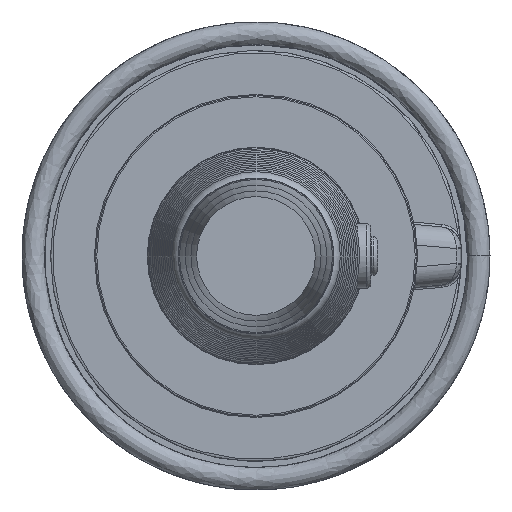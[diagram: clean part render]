
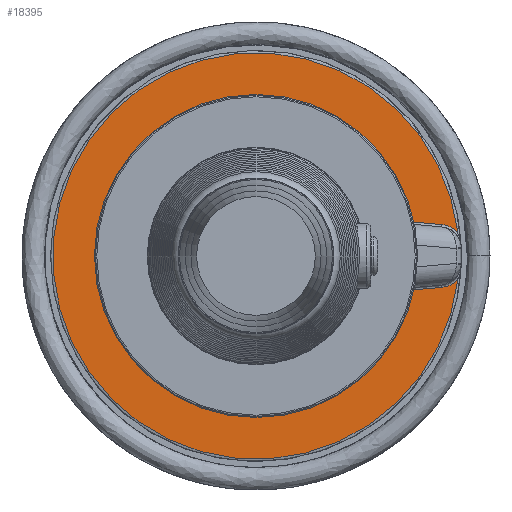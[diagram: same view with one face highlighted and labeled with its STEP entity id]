
A CAD part, left-side view. The second image highlights one B-rep face of the part: STEP entity #18395.
In plain terms, the highlighted planar face has unit normal (-1, 0, 0).
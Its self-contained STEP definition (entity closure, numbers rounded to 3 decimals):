
#1102=LINE('',#44011,#2132);
#1104=LINE('',#44035,#2134);
#2132=VECTOR('',#22736,10.);
#2134=VECTOR('',#22766,10.);
#2897=PLANE('',#19541);
#3720=FACE_OUTER_BOUND('',#4822,.T.);
#4822=EDGE_LOOP('',(#15258,#15259,#15260,#15261,#15262,#15263,#15264,#15265));
#5365=CIRCLE('',#19468,21.);
#5369=CIRCLE('',#19474,8.);
#5372=CIRCLE('',#19478,113.);
#5375=CIRCLE('',#19482,8.);
#5379=CIRCLE('',#19488,21.);
#5385=CIRCLE('',#19506,178.);
#7949=VERTEX_POINT('',#43978);
#7952=VERTEX_POINT('',#44003);
#7954=VERTEX_POINT('',#44009);
#7956=VERTEX_POINT('',#44015);
#7958=VERTEX_POINT('',#44021);
#7960=VERTEX_POINT('',#44027);
#7962=VERTEX_POINT('',#44033);
#7964=VERTEX_POINT('',#44039);
#10345=EDGE_CURVE('',#7952,#7949,#5365,.T.);
#10348=EDGE_CURVE('',#7954,#7952,#1102,.T.);
#10351=EDGE_CURVE('',#7956,#7954,#5369,.T.);
#10354=EDGE_CURVE('',#7958,#7956,#5372,.T.);
#10357=EDGE_CURVE('',#7960,#7958,#5375,.T.);
#10360=EDGE_CURVE('',#7962,#7960,#1104,.T.);
#10363=EDGE_CURVE('',#7964,#7962,#5379,.T.);
#10387=EDGE_CURVE('',#7949,#7964,#5385,.T.);
#15258=ORIENTED_EDGE('',*,*,#10363,.F.);
#15259=ORIENTED_EDGE('',*,*,#10387,.F.);
#15260=ORIENTED_EDGE('',*,*,#10345,.F.);
#15261=ORIENTED_EDGE('',*,*,#10348,.F.);
#15262=ORIENTED_EDGE('',*,*,#10351,.F.);
#15263=ORIENTED_EDGE('',*,*,#10354,.F.);
#15264=ORIENTED_EDGE('',*,*,#10357,.F.);
#15265=ORIENTED_EDGE('',*,*,#10360,.F.);
#18395=ADVANCED_FACE('',(#3720),#2897,.T.);
#19468=AXIS2_PLACEMENT_3D('',#44005,#22728,#22729);
#19474=AXIS2_PLACEMENT_3D('',#44017,#22742,#22743);
#19478=AXIS2_PLACEMENT_3D('',#44023,#22750,#22751);
#19482=AXIS2_PLACEMENT_3D('',#44029,#22758,#22759);
#19488=AXIS2_PLACEMENT_3D('',#44041,#22772,#22773);
#19506=AXIS2_PLACEMENT_3D('',#44176,#22818,#22819);
#19541=AXIS2_PLACEMENT_3D('',#44802,#22892,#22893);
#22728=DIRECTION('center_axis',(-1.,0.,0.));
#22729=DIRECTION('ref_axis',(0.,-0.535,-0.845));
#22736=DIRECTION('',(0.,-0.996,0.087));
#22742=DIRECTION('center_axis',(1.,0.,0.));
#22743=DIRECTION('ref_axis',(0.,0.614,0.789));
#22750=DIRECTION('center_axis',(-1.,0.,0.));
#22751=DIRECTION('ref_axis',(0.,1.,0.));
#22758=DIRECTION('center_axis',(1.,0.,0.));
#22759=DIRECTION('ref_axis',(0.,0.614,-0.789));
#22766=DIRECTION('',(0.,0.996,0.087));
#22772=DIRECTION('center_axis',(-1.,0.,0.));
#22773=DIRECTION('ref_axis',(0.,-0.535,0.845));
#22818=DIRECTION('center_axis',(1.,0.,0.));
#22819=DIRECTION('ref_axis',(0.,1.,0.));
#22892=DIRECTION('center_axis',(-1.,0.,0.));
#22893=DIRECTION('ref_axis',(0.,0.,
-1.));
#43978=CARTESIAN_POINT('',(-155.,-176.847,-20.223));
#44003=CARTESIAN_POINT('',(-155.,-162.695,-27.522));
#44005=CARTESIAN_POINT('Origin',(-155.,-160.865,-6.602));
#44009=CARTESIAN_POINT('',(-155.,-113.574,-31.819));
#44011=CARTESIAN_POINT('',(-155.,20.898,-43.584));
#44015=CARTESIAN_POINT('',(-155.,-106.716,-37.158));
#44017=CARTESIAN_POINT('Origin',(-155.,-114.271,-39.789));
#44021=CARTESIAN_POINT('',(-155.,-106.716,37.158));
#44023=CARTESIAN_POINT('Origin',(-155.,0.,
0.));
#44027=CARTESIAN_POINT('',(-155.,-113.574,31.819));
#44029=CARTESIAN_POINT('Origin',(-155.,-114.271,39.789));
#44033=CARTESIAN_POINT('',(-155.,-162.695,27.522));
#44035=CARTESIAN_POINT('',(-155.,20.898,43.584));
#44039=CARTESIAN_POINT('',(-155.,-176.847,20.223));
#44041=CARTESIAN_POINT('Origin',(-155.,-160.865,6.602));
#44176=CARTESIAN_POINT('Origin',(-155.,0.,
0.));
#44802=CARTESIAN_POINT('Origin',(-155.,179.,0.));
